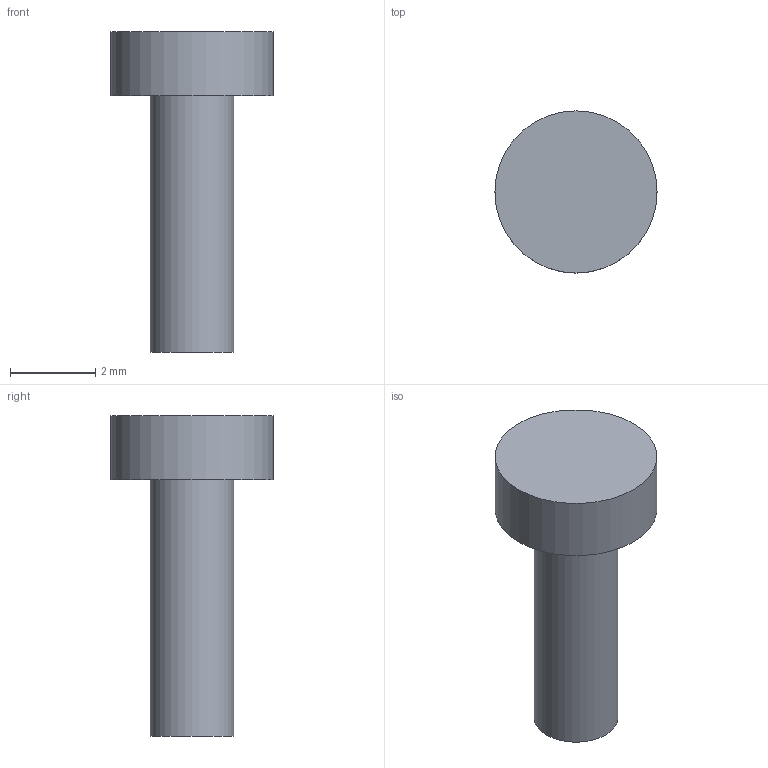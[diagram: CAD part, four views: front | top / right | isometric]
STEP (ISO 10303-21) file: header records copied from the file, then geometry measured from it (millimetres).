
FILE_DESCRIPTION(('Open CASCADE Model'),'2;1');
FILE_NAME('Open CASCADE Shape Model','2026-09-08T13:32:08',('Author'),( 'Open CASCADE'),'Open CASCADE STEP processor 7.7','Open CASCADE 7.7' ,'Unknown');
FILE_SCHEMA(('AUTOMOTIVE_DESIGN { 1 0 10303 214 1 1 1 1 }'));
Length unit declared in the file: millimetre
Products named in the file (1): Open CASCADE STEP translator 7.7 35
Bounding box: 3.8 x 3.8 x 7.5 mm (x, y, z)
Volume: 35.1 mm3; surface area: 77.5 mm2
Topology: 1 solids, 1 shells, 5 faces, 6 edges, 4 vertices
Faces by surface type: plane 3, cylinder 2
Full cylindrical faces by diameter (mm): 1.96 x1, 3.8 x1
Entity records: 192 total; most frequent: DIRECTION 34, CARTESIAN_POINT 28, ORIENTED_EDGE 12, PCURVE 12, DEFINITIONAL_REPRESENTATION 12, AXIS2_PLACEMENT_3D 10, LINE 10, VECTOR 10
